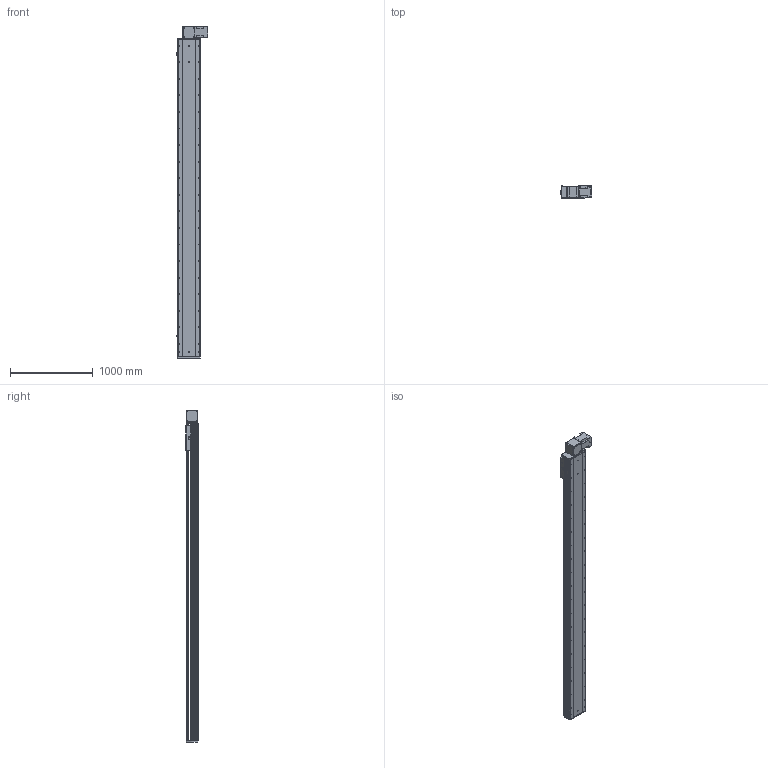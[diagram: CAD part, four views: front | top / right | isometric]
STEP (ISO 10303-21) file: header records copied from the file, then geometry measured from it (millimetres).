
FILE_DESCRIPTION (( 'STEP AP214' ), '1' );
FILE_NAME ('RTB28S-XX-3400-BL-M100-XX-C4.STEP', '2025-12-22T02:38:57', ( '' ), ( '' ), 'SwSTEP 2.0', 'SolidWorks 2018', '' );
FILE_SCHEMA (( 'AUTOMOTIVE_DESIGN' ));
Length unit declared in the file: millimetre
Products named in the file (4): RTB28S-GY-004^RTB28S-XX-XX-BL-M100-XX-C4; RTB28S-GY-008^RTB28S-XX-XX-BL-M100-XX-C4; RTB28S-XX-3400-BL-M100-XX-C4; RTB28S-GY-011^RTB28S-XX-XX-BL-M100-XX-C4
Assembly tree (3 placements, depth 2):
  RTB28S-XX-3400-BL-M100-XX-C4
    RTB28S-GY-011^RTB28S-XX-XX-BL-M100-XX-C4
    RTB28S-GY-004^RTB28S-XX-XX-BL-M100-XX-C4
    RTB28S-GY-008^RTB28S-XX-XX-BL-M100-XX-C4
Bounding box: 380.7 x 145 x 4007 mm (x, y, z)
Volume: 67407340.9 mm3; surface area: 6272557.7 mm2
Topology: 3 solids, 4 shells, 908 faces, 2448 edges, 1568 vertices
Faces by surface type: cylinder 455, plane 369, cone 80, torus 4
Entity records: 35345 total; most frequent: CARTESIAN_POINT 6802, DIRECTION 5214, ORIENTED_EDGE 4832, EDGE_CURVE 2416, AXIS2_PLACEMENT_3D 1932, VERTEX_POINT 1568, LINE 1350, VECTOR 1350
